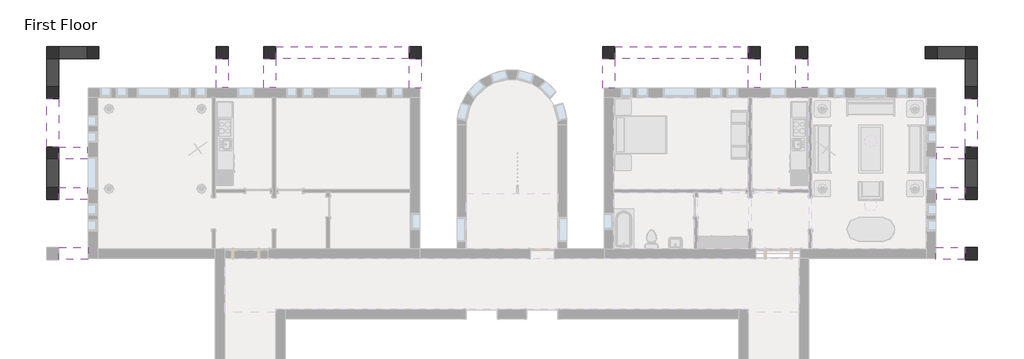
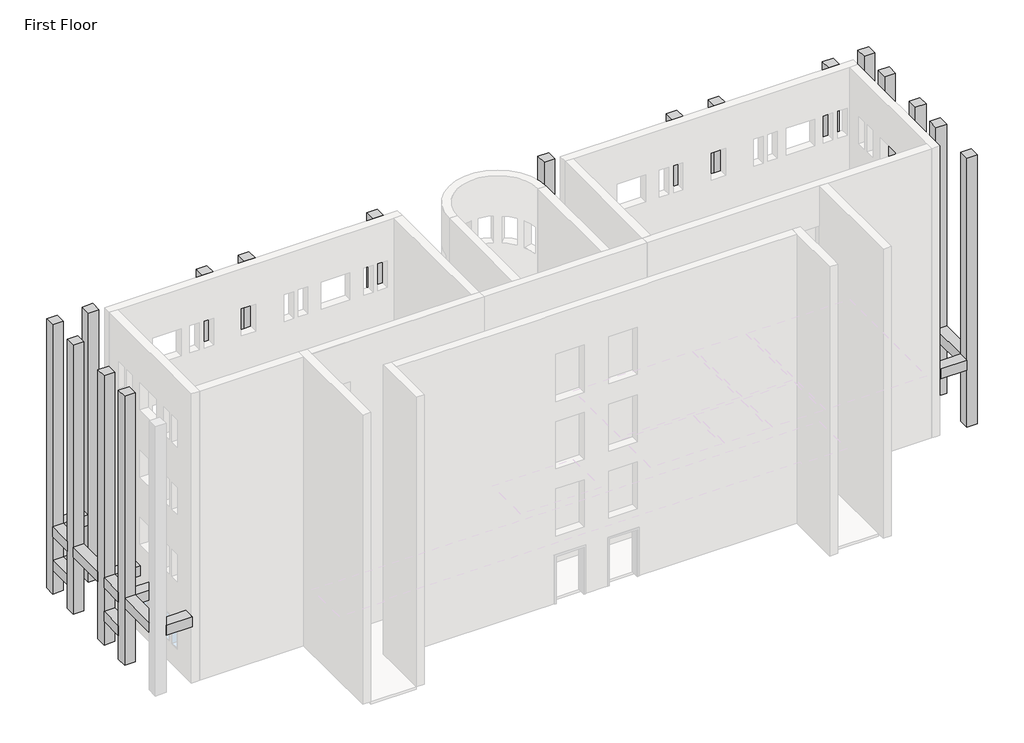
# One storey, part 20 of 23: 22 beams, 17 columns.
"""IFC4 building model written with IfcOpenShell, lengths in millimetres."""

from ifc_helpers import new_model, si_unit, frame, origin, origin_with_axes, place, context, project, spatial, polyline, outline, extrude, faceted_brep, element, save

model = new_model("IFC4")

# Units and contexts
model_context = context("Model", 3, world=origin())
ifc_project = project(units=[si_unit("LENGTHUNIT", "METRE", prefix="MILLI")], contexts=[model_context])

# Site, building, storey
site = spatial("IfcSite", under=ifc_project)
building = spatial("IfcBuilding", under=site)
storey = spatial("IfcBuildingStorey", under=building, Name="First Floor", Elevation=0.0)

# Beams
placement = place(None, origin())
element("IfcBeam", 1, ObjectType="Concrete-Rectangular Beam : 18 x 18", at=placement, inside=storey, context=model_context, shape_type="SweptSolid", body=[
    extrude(outline(polyline([(2093.9410437, 12198.8316867), (2093.9410437, 11741.6316867), (1027.1410437, 11741.6316867), (1027.1410437, 12198.8316867), (2093.9410437, 12198.8316867)])), frame((0.0, 0.0, 2590.8), z_axis=(0.0, 0.0, 1.0), x_axis=(1.0, 0.0, 0.0)), (0.0, 0.0, 1.0), 457.2),
    extrude(outline(polyline([(569.9410437, 12198.8316867), (569.9410437, 11741.6316867), (-3862.3589563, 11741.6316867), (-3862.3589563, 12198.8316867), (569.9410437, 12198.8316867)])), frame((0.0, 0.0, 2590.8), z_axis=(0.0, 0.0, 1.0), x_axis=(1.0, 0.0, 0.0)), (0.0, 0.0, 1.0), 457.2),
    extrude(outline(polyline([(-5665.7589563, 11741.6316867), (-5665.7589563, 12198.8316867), (-4319.5589563, 12198.8316867), (-4319.5589563, 11741.6316867), (-5665.7589563, 11741.6316867)])), frame((0.0, 0.0, 2590.8), z_axis=(0.0, 0.0, 1.0), x_axis=(1.0, 0.0, 0.0)), (0.0, 0.0, 1.0), 457.2),
    extrude(outline(polyline([(-6122.9589563, 12198.8316867), (-6122.9589563, 11741.6316867), (-11164.8589563, 11741.6316867), (-11164.8589563, 12198.8316867), (-6122.9589563, 12198.8316867)])), frame((0.0, 0.0, 2590.8), z_axis=(0.0, 0.0, 1.0), x_axis=(1.0, 0.0, 0.0)), (0.0, 0.0, 1.0), 457.2),
])
element("IfcBeam", 2, ObjectType="Concrete-Rectangular Beam : 18 x 18", at=placement, inside=storey, context=model_context, shape_type="SweptSolid", body=[
    extrude(outline(polyline([(2093.9410437, 11741.6316867), (2551.1410437, 11741.6316867), (2551.1410437, 10674.8316867), (2093.9410437, 10674.8316867), (2093.9410437, 11741.6316867)])), frame((0.0, 0.0, 2590.8), z_axis=(0.0, 0.0, 1.0), x_axis=(1.0, 0.0, 0.0)), (0.0, 0.0, 1.0), 457.2),
    extrude(outline(polyline([(2551.1410437, 4578.8316867), (2093.9410437, 4578.8316867), (2093.9410437, 6407.6316867), (2551.1410437, 6407.6316867), (2551.1410437, 4578.8316867)])), frame((0.0, 0.0, 2590.8), z_axis=(0.0, 0.0, 1.0), x_axis=(1.0, 0.0, 0.0)), (0.0, 0.0, 1.0), 457.2),
    extrude(outline(polyline([(2551.1410437, 6864.8316867), (2093.9410437, 6864.8316867), (2093.9410437, 7931.6316867), (2551.1410437, 7931.6316867), (2551.1410437, 6864.8316867)])), frame((0.0, 0.0, 2590.8), z_axis=(0.0, 0.0, 1.0), x_axis=(1.0, 0.0, 0.0)), (0.0, 0.0, 1.0), 457.2),
    extrude(outline(polyline([(2093.9410437, 10217.6316867), (2551.1410437, 10217.6316867), (2551.1410437, 8388.8316867), (2093.9410437, 8388.8316867), (2093.9410437, 10217.6316867)])), frame((0.0, 0.0, 2590.8), z_axis=(0.0, 0.0, 1.0), x_axis=(1.0, 0.0, 0.0)), (0.0, 0.0, 1.0), 457.2),
])
element("IfcBeam", 3, ObjectType="Concrete-Rectangular Beam : 18 x 18", at=placement, inside=storey, context=model_context, shape_type="SweptSolid", body=[
    extrude(outline(polyline([(-11164.8589563, 10624.0316867), (-11622.0589563, 10624.0316867), (-11622.0589563, 11741.6316867), (-11164.8589563, 11741.6316867), (-11164.8589563, 10624.0316867)])), frame((0.0, 0.0, 2590.8), z_axis=(0.0, 0.0, 1.0), x_axis=(1.0, 0.0, 0.0)), (0.0, 0.0, 1.0), 457.2),
])
element("IfcBeam", 4, ObjectType="Concrete-Rectangular Beam : 18 x 18", at=placement, inside=storey, context=model_context, shape_type="SweptSolid", body=[
    extrude(outline(polyline([(-5665.7589563, 10643.0816867), (-6122.9589563, 10643.0816867), (-6122.9589563, 11741.6316867), (-5665.7589563, 11741.6316867), (-5665.7589563, 10643.0816867)])), frame((0.0, 0.0, 2590.8), z_axis=(0.0, 0.0, 1.0), x_axis=(1.0, 0.0, 0.0)), (0.0, 0.0, 1.0), 457.2),
])
element("IfcBeam", 5, ObjectType="Concrete-Rectangular Beam : 18 x 18", at=placement, inside=storey, context=model_context, shape_type="SweptSolid", body=[
    extrude(outline(polyline([(1001.7410437, 6407.6316867), (1001.7410437, 6864.8316867), (2093.9410437, 6864.8316867), (2093.9410437, 6407.6316867), (1001.7410437, 6407.6316867)])), frame((0.0, 0.0, 2590.8), z_axis=(0.0, 0.0, 1.0), x_axis=(1.0, 0.0, 0.0)), (0.0, 0.0, 1.0), 457.2),
])
element("IfcBeam", 6, ObjectType="Concrete-Rectangular Beam : 18 x 18", at=placement, inside=storey, context=model_context, shape_type="SweptSolid", body=[
    extrude(outline(polyline([(2093.9410437, 12198.8316867), (2093.9410437, 11741.6316867), (1027.1410437, 11741.6316867), (1027.1410437, 12198.8316867), (2093.9410437, 12198.8316867)])), frame((0.0, 0.0, 1066.8), z_axis=(0.0, 0.0, 1.0), x_axis=(1.0, 0.0, 0.0)), (0.0, 0.0, 1.0), 457.2),
])
element("IfcBeam", 7, ObjectType="Concrete-Rectangular Beam : 18 x 18", at=placement, inside=storey, context=model_context, shape_type="SweptSolid", body=[
    extrude(outline(polyline([(2551.1410437, 10674.8316867), (2093.9410437, 10674.8316867), (2093.9410437, 11741.6316867), (2551.1410437, 11741.6316867), (2551.1410437, 10674.8316867)])), frame((0.0, 0.0, 1066.8), z_axis=(0.0, 0.0, 1.0), x_axis=(1.0, 0.0, 0.0)), (0.0, 0.0, 1.0), 457.2),
])
element("IfcBeam", 8, ObjectType="Concrete-Rectangular Beam : 18 x 18", at=placement, inside=storey, context=model_context, shape_type="SweptSolid", body=[
    extrude(outline(polyline([(-3862.3589563, 10643.0816867), (-4319.5589563, 10643.0816867), (-4319.5589563, 11741.6316867), (-3862.3589563, 11741.6316867), (-3862.3589563, 10643.0816867)])), frame((0.0, 0.0, 2590.8), z_axis=(0.0, 0.0, 1.0), x_axis=(1.0, 0.0, 0.0)), (0.0, 0.0, 1.0), 457.2),
])
element("IfcBeam", 9, ObjectType="Concrete-Rectangular Beam : 18 x 18", at=placement, inside=storey, context=model_context, shape_type="SweptSolid", body=[
    extrude(outline(polyline([(1001.7410437, 7931.6316867), (1001.7410437, 8388.8316867), (2093.9410437, 8388.8316867), (2093.9410437, 7931.6316867), (1001.7410437, 7931.6316867)])), frame((0.0, 0.0, 2590.8), z_axis=(0.0, 0.0, 1.0), x_axis=(1.0, 0.0, 0.0)), (0.0, 0.0, 1.0), 457.2),
])
element("IfcBeam", 10, ObjectType="Concrete-Rectangular Beam : 18 x 18", at=placement, inside=storey, context=model_context, shape_type="SweptSolid", body=[
    extrude(outline(polyline([(976.3410437, 4121.6316867), (976.3410437, 4578.8316867), (2093.9410437, 4578.8316867), (2093.9410437, 4121.6316867), (976.3410437, 4121.6316867)])), frame((0.0, 0.0, 2590.8), z_axis=(0.0, 0.0, 1.0), x_axis=(1.0, 0.0, 0.0)), (0.0, 0.0, 1.0), 457.2),
])
element("IfcBeam", 11, ObjectType="Concrete-Rectangular Beam : 18 x 18", at=placement, inside=storey, context=model_context, shape_type="SweptSolid", body=[
    extrude(outline(polyline([(2551.1410437, 6864.8316867), (2093.9410437, 6864.8316867), (2093.9410437, 7931.6316867), (2551.1410437, 7931.6316867), (2551.1410437, 6864.8316867)])), frame((0.0, 0.0, 1066.8), z_axis=(0.0, 0.0, 1.0), x_axis=(1.0, 0.0, 0.0)), (0.0, 0.0, 1.0), 457.2),
])
element("IfcBeam", 12, ObjectType="Concrete-Rectangular Beam : 18 x 18", at=placement, inside=storey, context=model_context, shape_type="SweptSolid", body=[
    extrude(outline(polyline([(-32218.2839563, 11741.6316867), (-32218.2839563, 12198.8316867), (-31151.4839563, 12198.8316867), (-31151.4839563, 11741.6316867), (-32218.2839563, 11741.6316867)])), frame((0.0, 0.0, 2590.8), z_axis=(0.0, 0.0, 1.0), x_axis=(1.0, 0.0, 0.0)), (0.0, 0.0, 1.0), 457.2),
    extrude(outline(polyline([(-30694.2839563, 11741.6316867), (-30694.2839563, 12198.8316867), (-26261.9839563, 12198.8316867), (-26261.9839563, 11741.6316867), (-30694.2839563, 11741.6316867)])), frame((0.0, 0.0, 2590.8), z_axis=(0.0, 0.0, 1.0), x_axis=(1.0, 0.0, 0.0)), (0.0, 0.0, 1.0), 457.2),
    extrude(outline(polyline([(-24458.5839563, 12198.8316867), (-24458.5839563, 11741.6316867), (-25804.7839563, 11741.6316867), (-25804.7839563, 12198.8316867), (-24458.5839563, 12198.8316867)])), frame((0.0, 0.0, 2590.8), z_axis=(0.0, 0.0, 1.0), x_axis=(1.0, 0.0, 0.0)), (0.0, 0.0, 1.0), 457.2),
    extrude(outline(polyline([(-24001.3839563, 11741.6316867), (-24001.3839563, 12198.8316867), (-18959.4839563, 12198.8316867), (-18959.4839563, 11741.6316867), (-24001.3839563, 11741.6316867)])), frame((0.0, 0.0, 2590.8), z_axis=(0.0, 0.0, 1.0), x_axis=(1.0, 0.0, 0.0)), (0.0, 0.0, 1.0), 457.2),
])
element("IfcBeam", 13, ObjectType="Concrete-Rectangular Beam : 18 x 18", at=placement, inside=storey, context=model_context, shape_type="SweptSolid", body=[
    extrude(outline(polyline([(-32218.2839563, 4578.8316867), (-32675.4839563, 4578.8316867), (-32675.4839563, 6407.6316867), (-32218.2839563, 6407.6316867), (-32218.2839563, 4578.8316867)])), frame((0.0, 0.0, 2590.8), z_axis=(0.0, 0.0, 1.0), x_axis=(1.0, 0.0, 0.0)), (0.0, 0.0, 1.0), 457.2),
    extrude(outline(polyline([(-32675.4839563, 11741.6316867), (-32218.2839563, 11741.6316867), (-32218.2839563, 10674.8316867), (-32675.4839563, 10674.8316867), (-32675.4839563, 11741.6316867)])), frame((0.0, 0.0, 2590.8), z_axis=(0.0, 0.0, 1.0), x_axis=(1.0, 0.0, 0.0)), (0.0, 0.0, 1.0), 457.2),
    extrude(outline(polyline([(-32218.2839563, 6864.8316867), (-32675.4839563, 6864.8316867), (-32675.4839563, 7931.6316867), (-32218.2839563, 7931.6316867), (-32218.2839563, 6864.8316867)])), frame((0.0, 0.0, 2590.8), z_axis=(0.0, 0.0, 1.0), x_axis=(1.0, 0.0, 0.0)), (0.0, 0.0, 1.0), 457.2),
    extrude(outline(polyline([(-32675.4839563, 10217.6316867), (-32218.2839563, 10217.6316867), (-32218.2839563, 8388.8316867), (-32675.4839563, 8388.8316867), (-32675.4839563, 10217.6316867)])), frame((0.0, 0.0, 2590.8), z_axis=(0.0, 0.0, 1.0), x_axis=(1.0, 0.0, 0.0)), (0.0, 0.0, 1.0), 457.2),
])
element("IfcBeam", 14, ObjectType="Concrete-Rectangular Beam : 18 x 18", at=placement, inside=storey, context=model_context, shape_type="SweptSolid", body=[
    extrude(outline(polyline([(-18502.2839563, 10624.0316867), (-18959.4839563, 10624.0316867), (-18959.4839563, 11741.6316867), (-18502.2839563, 11741.6316867), (-18502.2839563, 10624.0316867)])), frame((0.0, 0.0, 2590.8), z_axis=(0.0, 0.0, 1.0), x_axis=(1.0, 0.0, 0.0)), (0.0, 0.0, 1.0), 457.2),
])
element("IfcBeam", 15, ObjectType="Concrete-Rectangular Beam : 18 x 18", at=placement, inside=storey, context=model_context, shape_type="SweptSolid", body=[
    extrude(outline(polyline([(-24001.3839563, 10643.0816867), (-24458.5839563, 10643.0816867), (-24458.5839563, 11741.6316867), (-24001.3839563, 11741.6316867), (-24001.3839563, 10643.0816867)])), frame((0.0, 0.0, 2590.8), z_axis=(0.0, 0.0, 1.0), x_axis=(1.0, 0.0, 0.0)), (0.0, 0.0, 1.0), 457.2),
])
element("IfcBeam", 16, ObjectType="Concrete-Rectangular Beam : 18 x 18", at=placement, inside=storey, context=model_context, shape_type="SweptSolid", body=[
    extrude(outline(polyline([(-31126.0839563, 6864.8316867), (-31126.0839563, 6407.6316867), (-32218.2839563, 6407.6316867), (-32218.2839563, 6864.8316867), (-31126.0839563, 6864.8316867)])), frame((0.0, 0.0, 2590.8), z_axis=(0.0, 0.0, 1.0), x_axis=(1.0, 0.0, 0.0)), (0.0, 0.0, 1.0), 457.2),
])
element("IfcBeam", 17, ObjectType="Concrete-Rectangular Beam : 18 x 18", at=placement, inside=storey, context=model_context, shape_type="SweptSolid", body=[
    extrude(outline(polyline([(-32218.2839563, 12198.8316867), (-31151.4839563, 12198.8316867), (-31151.4839563, 11741.6316867), (-32218.2839563, 11741.6316867), (-32218.2839563, 12198.8316867)])), frame((0.0, 0.0, 1066.8), z_axis=(0.0, 0.0, 1.0), x_axis=(1.0, 0.0, 0.0)), (0.0, 0.0, 1.0), 457.2),
])
element("IfcBeam", 18, ObjectType="Concrete-Rectangular Beam : 18 x 18", at=placement, inside=storey, context=model_context, shape_type="SweptSolid", body=[
    extrude(outline(polyline([(-32675.4839563, 10674.8316867), (-32675.4839563, 11741.6316867), (-32218.2839563, 11741.6316867), (-32218.2839563, 10674.8316867), (-32675.4839563, 10674.8316867)])), frame((0.0, 0.0, 1066.8), z_axis=(0.0, 0.0, 1.0), x_axis=(1.0, 0.0, 0.0)), (0.0, 0.0, 1.0), 457.2),
])
element("IfcBeam", 19, ObjectType="Concrete-Rectangular Beam : 18 x 18", at=placement, inside=storey, context=model_context, shape_type="SweptSolid", body=[
    extrude(outline(polyline([(-25804.7839563, 10643.0816867), (-26261.9839563, 10643.0816867), (-26261.9839563, 11741.6316867), (-25804.7839563, 11741.6316867), (-25804.7839563, 10643.0816867)])), frame((0.0, 0.0, 2590.8), z_axis=(0.0, 0.0, 1.0), x_axis=(1.0, 0.0, 0.0)), (0.0, 0.0, 1.0), 457.2),
])
element("IfcBeam", 20, ObjectType="Concrete-Rectangular Beam : 18 x 18", at=placement, inside=storey, context=model_context, shape_type="SweptSolid", body=[
    extrude(outline(polyline([(-31126.0839563, 8388.8316867), (-31126.0839563, 7931.6316867), (-32218.2839563, 7931.6316867), (-32218.2839563, 8388.8316867), (-31126.0839563, 8388.8316867)])), frame((0.0, 0.0, 2590.8), z_axis=(0.0, 0.0, 1.0), x_axis=(1.0, 0.0, 0.0)), (0.0, 0.0, 1.0), 457.2),
])
element("IfcBeam", 21, ObjectType="Concrete-Rectangular Beam : 18 x 18", at=placement, inside=storey, context=model_context, shape_type="SweptSolid", body=[
    extrude(outline(polyline([(-31100.6839563, 4578.8316867), (-31100.6839563, 4121.6316867), (-32218.2839563, 4121.6316867), (-32218.2839563, 4578.8316867), (-31100.6839563, 4578.8316867)])), frame((0.0, 0.0, 2590.8), z_axis=(0.0, 0.0, 1.0), x_axis=(1.0, 0.0, 0.0)), (0.0, 0.0, 1.0), 457.2),
])
element("IfcBeam", 22, ObjectType="Concrete-Rectangular Beam : 18 x 18", at=placement, inside=storey, context=model_context, shape_type="SweptSolid", body=[
    extrude(outline(polyline([(-32675.4839563, 6864.8316867), (-32675.4839563, 7931.6316867), (-32218.2839563, 7931.6316867), (-32218.2839563, 6864.8316867), (-32675.4839563, 6864.8316867)])), frame((0.0, 0.0, 1066.8), z_axis=(0.0, 0.0, 1.0), x_axis=(1.0, 0.0, 0.0)), (0.0, 0.0, 1.0), 457.2),
])

# Columns
element("IfcColumn", 23, ObjectType="Concrete-Square-Column : 18 x 18", at=placement, inside=storey, context=model_context, shape_type="Brep", body=[
    faceted_brep([(1027.1410437, 12198.8316867, 0.0), (1027.1410437, 11741.6316867, 0.0), (569.9410437, 11741.6316867, 0.0), (569.9410437, 12198.8316867, 0.0), (1027.1410437, 12198.8316867, 12192.0), (1027.1410437, 11741.6316867, 12192.0), (1027.1410437, 11741.6316867, 11734.8), (1027.1410437, 11741.6316867, 9144.0), (1027.1410437, 11741.6316867, 8686.8), (1027.1410437, 11741.6316867, 6096.0), (1027.1410437, 11741.6316867, 5638.8), (1027.1410437, 11741.6316867, 3048.0), (1027.1410437, 11741.6316867, 2590.8), (1027.1410437, 12198.8316867, 2590.8), (1027.1410437, 12198.8316867, 3048.0), (1027.1410437, 12198.8316867, 5638.8), (1027.1410437, 12198.8316867, 6096.0), (1027.1410437, 12198.8316867, 8686.8), (1027.1410437, 12198.8316867, 9144.0), (1027.1410437, 12198.8316867, 11734.8), (569.9410437, 11741.6316867, 12192.0), (569.9410437, 11741.6316867, 11734.8), (569.9410437, 11741.6316867, 9144.0), (569.9410437, 11741.6316867, 8686.8), (569.9410437, 11741.6316867, 6096.0), (569.9410437, 11741.6316867, 5638.8), (569.9410437, 11741.6316867, 3048.0), (569.9410437, 11741.6316867, 2590.8), (569.9410437, 12198.8316867, 12192.0), (569.9410437, 12198.8316867, 11734.8), (569.9410437, 12198.8316867, 9144.0), (569.9410437, 12198.8316867, 8686.8), (569.9410437, 12198.8316867, 6096.0), (569.9410437, 12198.8316867, 5638.8), (569.9410437, 12198.8316867, 3048.0), (569.9410437, 12198.8316867, 2590.8)], [[[0, 1, 2, 3]], [[4, 5, 6, 7, 8, 9, 10, 11, 12, 1, 0, 13, 14, 15, 16, 17, 18, 19]], [[5, 20, 21, 22, 23, 24, 25, 26, 27, 2, 1, 12, 11, 10, 9, 8, 7, 6]], [[20, 28, 29, 30, 31, 32, 33, 34, 35, 3, 2, 27, 26, 25, 24, 23, 22, 21]], [[28, 4, 19, 18, 17, 16, 15, 14, 13, 0, 3, 35, 34, 33, 32, 31, 30, 29]], [[4, 28, 20, 5]]]),
])
element("IfcColumn", 24, ObjectType="Concrete-Square-Column : 18 x 18", at=placement, inside=storey, context=model_context, shape_type="SweptSolid", body=[
    extrude(outline(polyline([(2551.1410437, 12198.8316867), (2551.1410437, 11741.6316867), (2093.9410437, 11741.6316867), (2093.9410437, 12198.8316867), (2551.1410437, 12198.8316867)])), origin_with_axes(), (0.0, 0.0, 1.0), 12192.0),
])
element("IfcColumn", 25, ObjectType="Concrete-Square-Column : 18 x 18", at=placement, inside=storey, context=model_context, shape_type="Brep", body=[
    faceted_brep([(-5665.7589563, 12198.8316867, 0.0), (-5665.7589563, 11741.6316867, 0.0), (-6122.9589563, 11741.6316867, 0.0), (-6122.9589563, 12198.8316867, 0.0), (-5665.7589563, 12198.8316867, 12192.0), (-5665.7589563, 11741.6316867, 12192.0), (-5665.7589563, 11741.6316867, 11734.8), (-5665.7589563, 11741.6316867, 9144.0), (-5665.7589563, 11741.6316867, 8686.8), (-5665.7589563, 11741.6316867, 6096.0), (-5665.7589563, 11741.6316867, 5638.8), (-5665.7589563, 11741.6316867, 3048.0), (-5665.7589563, 11741.6316867, 2590.8), (-5665.7589563, 12198.8316867, 2590.8), (-5665.7589563, 12198.8316867, 3048.0), (-5665.7589563, 12198.8316867, 5638.8), (-5665.7589563, 12198.8316867, 6096.0), (-5665.7589563, 12198.8316867, 8686.8), (-5665.7589563, 12198.8316867, 9144.0), (-5665.7589563, 12198.8316867, 11734.8), (-6122.9589563, 11741.6316867, 12192.0), (-6122.9589563, 11741.6316867, 11734.8), (-6122.9589563, 11741.6316867, 9144.0), (-6122.9589563, 11741.6316867, 8686.8), (-6122.9589563, 11741.6316867, 6096.0), (-6122.9589563, 11741.6316867, 5638.8), (-6122.9589563, 11741.6316867, 3048.0), (-6122.9589563, 11741.6316867, 2590.8), (-6122.9589563, 12198.8316867, 12192.0), (-6122.9589563, 12198.8316867, 11734.8), (-6122.9589563, 12198.8316867, 9144.0), (-6122.9589563, 12198.8316867, 8686.8), (-6122.9589563, 12198.8316867, 6096.0), (-6122.9589563, 12198.8316867, 5638.8), (-6122.9589563, 12198.8316867, 3048.0), (-6122.9589563, 12198.8316867, 2590.8)], [[[0, 1, 2, 3]], [[4, 5, 6, 7, 8, 9, 10, 11, 12, 1, 0, 13, 14, 15, 16, 17, 18, 19]], [[5, 20, 21, 22, 23, 24, 25, 26, 27, 2, 1, 12, 11, 10, 9, 8, 7, 6]], [[20, 28, 29, 30, 31, 32, 33, 34, 35, 3, 2, 27, 26, 25, 24, 23, 22, 21]], [[28, 4, 19, 18, 17, 16, 15, 14, 13, 0, 3, 35, 34, 33, 32, 31, 30, 29]], [[4, 28, 20, 5]]]),
])
element("IfcColumn", 26, ObjectType="Concrete-Square-Column : 18 x 18", at=placement, inside=storey, context=model_context, shape_type="Brep", body=[
    faceted_brep([(2551.1410437, 6864.8316867, 0.0), (2551.1410437, 6407.6316867, 0.0), (2093.9410437, 6407.6316867, 0.0), (2093.9410437, 6864.8316867, 0.0), (2551.1410437, 6864.8316867, 12192.0), (2551.1410437, 6407.6316867, 12192.0), (2551.1410437, 6407.6316867, 11734.8), (2551.1410437, 6407.6316867, 9144.0), (2551.1410437, 6407.6316867, 8686.8), (2551.1410437, 6407.6316867, 6096.0), (2551.1410437, 6407.6316867, 5638.8), (2551.1410437, 6407.6316867, 3048.0), (2551.1410437, 6407.6316867, 2590.8), (2551.1410437, 6864.8316867, 2590.8), (2551.1410437, 6864.8316867, 3048.0), (2551.1410437, 6864.8316867, 5638.8), (2551.1410437, 6864.8316867, 6096.0), (2551.1410437, 6864.8316867, 8686.8), (2551.1410437, 6864.8316867, 9144.0), (2551.1410437, 6864.8316867, 11734.8), (2093.9410437, 6407.6316867, 12192.0), (2093.9410437, 6407.6316867, 11734.8), (2093.9410437, 6407.6316867, 9144.0), (2093.9410437, 6407.6316867, 8686.8), (2093.9410437, 6407.6316867, 6096.0), (2093.9410437, 6407.6316867, 5638.8), (2093.9410437, 6407.6316867, 3048.0), (2093.9410437, 6407.6316867, 2590.8), (2093.9410437, 6864.8316867, 12192.0), (2093.9410437, 6864.8316867, 11734.8), (2093.9410437, 6864.8316867, 9144.0), (2093.9410437, 6864.8316867, 8686.8), (2093.9410437, 6864.8316867, 6096.0), (2093.9410437, 6864.8316867, 5638.8), (2093.9410437, 6864.8316867, 3048.0), (2093.9410437, 6864.8316867, 2590.8)], [[[0, 1, 2, 3]], [[4, 5, 6, 7, 8, 9, 10, 11, 12, 1, 0, 13, 14, 15, 16, 17, 18, 19]], [[5, 20, 21, 22, 23, 24, 25, 26, 27, 2, 1, 12, 11, 10, 9, 8, 7, 6]], [[20, 28, 29, 30, 31, 32, 33, 34, 35, 3, 2, 27, 26, 25, 24, 23, 22, 21]], [[28, 4, 19, 18, 17, 16, 15, 14, 13, 0, 3, 35, 34, 33, 32, 31, 30, 29]], [[4, 28, 20, 5]]]),
])
element("IfcColumn", 27, ObjectType="Concrete-Square-Column : 18 x 18", at=placement, inside=storey, context=model_context, shape_type="SweptSolid", body=[
    extrude(outline(polyline([(2551.1410437, 4578.8316867), (2551.1410437, 4121.6316867), (2093.9410437, 4121.6316867), (2093.9410437, 4578.8316867), (2551.1410437, 4578.8316867)])), origin_with_axes(), (0.0, 0.0, 1.0), 12192.0),
])
element("IfcColumn", 28, ObjectType="Concrete-Square-Column : 18 x 18", at=placement, inside=storey, context=model_context, shape_type="Brep", body=[
    faceted_brep([(-11164.8589563, 12198.8316867, 0.0), (-11164.8589563, 11741.6316867, 0.0), (-11622.0589563, 11741.6316867, 0.0), (-11622.0589563, 12198.8316867, 0.0), (-11164.8589563, 12198.8316867, 12192.0), (-11164.8589563, 11741.6316867, 12192.0), (-11164.8589563, 11741.6316867, 11734.8), (-11164.8589563, 11741.6316867, 9144.0), (-11164.8589563, 11741.6316867, 8686.8), (-11164.8589563, 11741.6316867, 6096.0), (-11164.8589563, 11741.6316867, 5638.8), (-11164.8589563, 11741.6316867, 3048.0), (-11164.8589563, 11741.6316867, 2590.8), (-11164.8589563, 12198.8316867, 2590.8), (-11164.8589563, 12198.8316867, 3048.0), (-11164.8589563, 12198.8316867, 5638.8), (-11164.8589563, 12198.8316867, 6096.0), (-11164.8589563, 12198.8316867, 8686.8), (-11164.8589563, 12198.8316867, 9144.0), (-11164.8589563, 12198.8316867, 11734.8), (-11622.0589563, 11741.6316867, 12192.0), (-11622.0589563, 12198.8316867, 12192.0)], [[[0, 1, 2, 3]], [[4, 5, 6, 7, 8, 9, 10, 11, 12, 1, 0, 13, 14, 15, 16, 17, 18, 19]], [[5, 20, 2, 1, 12, 11, 10, 9, 8, 7, 6]], [[20, 21, 3, 2]], [[21, 4, 19, 18, 17, 16, 15, 14, 13, 0, 3]], [[4, 21, 20, 5]]]),
])
element("IfcColumn", 29, ObjectType="Concrete-Square-Column : 18 x 18", at=placement, inside=storey, context=model_context, shape_type="Brep", body=[
    faceted_brep([(2551.1410437, 10674.8316867, 0.0), (2551.1410437, 10217.6316867, 0.0), (2093.9410437, 10217.6316867, 0.0), (2093.9410437, 10674.8316867, 0.0), (2551.1410437, 10674.8316867, 12192.0), (2551.1410437, 10217.6316867, 12192.0), (2551.1410437, 10217.6316867, 11734.8), (2551.1410437, 10217.6316867, 9144.0), (2551.1410437, 10217.6316867, 8686.8), (2551.1410437, 10217.6316867, 6096.0), (2551.1410437, 10217.6316867, 5638.8), (2551.1410437, 10217.6316867, 3048.0), (2551.1410437, 10217.6316867, 2590.8), (2551.1410437, 10674.8316867, 2590.8), (2551.1410437, 10674.8316867, 3048.0), (2551.1410437, 10674.8316867, 5638.8), (2551.1410437, 10674.8316867, 6096.0), (2551.1410437, 10674.8316867, 8686.8), (2551.1410437, 10674.8316867, 9144.0), (2551.1410437, 10674.8316867, 11734.8), (2093.9410437, 10217.6316867, 12192.0), (2093.9410437, 10217.6316867, 11734.8), (2093.9410437, 10217.6316867, 9144.0), (2093.9410437, 10217.6316867, 8686.8), (2093.9410437, 10217.6316867, 6096.0), (2093.9410437, 10217.6316867, 5638.8), (2093.9410437, 10217.6316867, 3048.0), (2093.9410437, 10217.6316867, 2590.8), (2093.9410437, 10674.8316867, 12192.0), (2093.9410437, 10674.8316867, 11734.8), (2093.9410437, 10674.8316867, 9144.0), (2093.9410437, 10674.8316867, 8686.8), (2093.9410437, 10674.8316867, 6096.0), (2093.9410437, 10674.8316867, 5638.8), (2093.9410437, 10674.8316867, 3048.0), (2093.9410437, 10674.8316867, 2590.8)], [[[0, 1, 2, 3]], [[4, 5, 6, 7, 8, 9, 10, 11, 12, 1, 0, 13, 14, 15, 16, 17, 18, 19]], [[5, 20, 21, 22, 23, 24, 25, 26, 27, 2, 1, 12, 11, 10, 9, 8, 7, 6]], [[20, 28, 29, 30, 31, 32, 33, 34, 35, 3, 2, 27, 26, 25, 24, 23, 22, 21]], [[28, 4, 19, 18, 17, 16, 15, 14, 13, 0, 3, 35, 34, 33, 32, 31, 30, 29]], [[4, 28, 20, 5]]]),
])
element("IfcColumn", 30, ObjectType="Concrete-Square-Column : 18 x 18", at=placement, inside=storey, context=model_context, shape_type="Brep", body=[
    faceted_brep([(2551.1410437, 8388.8316867, 0.0), (2551.1410437, 7931.6316867, 0.0), (2093.9410437, 7931.6316867, 0.0), (2093.9410437, 8388.8316867, 0.0), (2551.1410437, 8388.8316867, 12192.0), (2551.1410437, 7931.6316867, 12192.0), (2551.1410437, 7931.6316867, 11734.8), (2551.1410437, 7931.6316867, 9144.0), (2551.1410437, 7931.6316867, 8686.8), (2551.1410437, 7931.6316867, 6096.0), (2551.1410437, 7931.6316867, 5638.8), (2551.1410437, 7931.6316867, 3048.0), (2551.1410437, 7931.6316867, 2590.8), (2551.1410437, 8388.8316867, 2590.8), (2551.1410437, 8388.8316867, 3048.0), (2551.1410437, 8388.8316867, 5638.8), (2551.1410437, 8388.8316867, 6096.0), (2551.1410437, 8388.8316867, 8686.8), (2551.1410437, 8388.8316867, 9144.0), (2551.1410437, 8388.8316867, 11734.8), (2093.9410437, 7931.6316867, 12192.0), (2093.9410437, 7931.6316867, 11734.8), (2093.9410437, 7931.6316867, 9144.0), (2093.9410437, 7931.6316867, 8686.8), (2093.9410437, 7931.6316867, 6096.0), (2093.9410437, 7931.6316867, 5638.8), (2093.9410437, 7931.6316867, 3048.0), (2093.9410437, 7931.6316867, 2590.8), (2093.9410437, 8388.8316867, 12192.0), (2093.9410437, 8388.8316867, 11734.8), (2093.9410437, 8388.8316867, 9144.0), (2093.9410437, 8388.8316867, 8686.8), (2093.9410437, 8388.8316867, 6096.0), (2093.9410437, 8388.8316867, 5638.8), (2093.9410437, 8388.8316867, 3048.0), (2093.9410437, 8388.8316867, 2590.8)], [[[0, 1, 2, 3]], [[4, 5, 6, 7, 8, 9, 10, 11, 12, 1, 0, 13, 14, 15, 16, 17, 18, 19]], [[5, 20, 21, 22, 23, 24, 25, 26, 27, 2, 1, 12, 11, 10, 9, 8, 7, 6]], [[20, 28, 29, 30, 31, 32, 33, 34, 35, 3, 2, 27, 26, 25, 24, 23, 22, 21]], [[28, 4, 19, 18, 17, 16, 15, 14, 13, 0, 3, 35, 34, 33, 32, 31, 30, 29]], [[4, 28, 20, 5]]]),
])
element("IfcColumn", 31, ObjectType="Concrete-Square-Column : 18 x 18", at=placement, inside=storey, context=model_context, shape_type="Brep", body=[
    faceted_brep([(-3862.3589563, 12198.8316867, 0.0), (-3862.3589563, 11741.6316867, 0.0), (-4319.5589563, 11741.6316867, 0.0), (-4319.5589563, 12198.8316867, 0.0), (-3862.3589563, 12198.8316867, 12192.0), (-3862.3589563, 11741.6316867, 12192.0), (-3862.3589563, 11741.6316867, 11734.8), (-3862.3589563, 11741.6316867, 9144.0), (-3862.3589563, 11741.6316867, 8686.8), (-3862.3589563, 11741.6316867, 6096.0), (-3862.3589563, 11741.6316867, 5638.8), (-3862.3589563, 11741.6316867, 3048.0), (-3862.3589563, 11741.6316867, 2590.8), (-3862.3589563, 12198.8316867, 2590.8), (-3862.3589563, 12198.8316867, 3048.0), (-3862.3589563, 12198.8316867, 5638.8), (-3862.3589563, 12198.8316867, 6096.0), (-3862.3589563, 12198.8316867, 8686.8), (-3862.3589563, 12198.8316867, 9144.0), (-3862.3589563, 12198.8316867, 11734.8), (-4319.5589563, 11741.6316867, 12192.0), (-4319.5589563, 11741.6316867, 11734.8), (-4319.5589563, 11741.6316867, 9144.0), (-4319.5589563, 11741.6316867, 8686.8), (-4319.5589563, 11741.6316867, 6096.0), (-4319.5589563, 11741.6316867, 5638.8), (-4319.5589563, 11741.6316867, 3048.0), (-4319.5589563, 11741.6316867, 2590.8), (-4319.5589563, 12198.8316867, 12192.0), (-4319.5589563, 12198.8316867, 11734.8), (-4319.5589563, 12198.8316867, 9144.0), (-4319.5589563, 12198.8316867, 8686.8), (-4319.5589563, 12198.8316867, 6096.0), (-4319.5589563, 12198.8316867, 5638.8), (-4319.5589563, 12198.8316867, 3048.0), (-4319.5589563, 12198.8316867, 2590.8)], [[[0, 1, 2, 3]], [[4, 5, 6, 7, 8, 9, 10, 11, 12, 1, 0, 13, 14, 15, 16, 17, 18, 19]], [[5, 20, 21, 22, 23, 24, 25, 26, 27, 2, 1, 12, 11, 10, 9, 8, 7, 6]], [[20, 28, 29, 30, 31, 32, 33, 34, 35, 3, 2, 27, 26, 25, 24, 23, 22, 21]], [[28, 4, 19, 18, 17, 16, 15, 14, 13, 0, 3, 35, 34, 33, 32, 31, 30, 29]], [[4, 28, 20, 5]]]),
])
element("IfcColumn", 32, ObjectType="Concrete-Square-Column : 18 x 18", at=placement, inside=storey, context=model_context, shape_type="Brep", body=[
    faceted_brep([(-31151.4839563, 12198.8316867, 0.0), (-30694.2839563, 12198.8316867, 0.0), (-30694.2839563, 11741.6316867, 0.0), (-31151.4839563, 11741.6316867, 0.0), (-31151.4839563, 12198.8316867, 12192.0), (-31151.4839563, 12198.8316867, 11734.8), (-31151.4839563, 12198.8316867, 9144.0), (-31151.4839563, 12198.8316867, 8686.8), (-31151.4839563, 12198.8316867, 6096.0), (-31151.4839563, 12198.8316867, 5638.8), (-31151.4839563, 12198.8316867, 3048.0), (-31151.4839563, 12198.8316867, 2590.8), (-31151.4839563, 11741.6316867, 2590.8), (-31151.4839563, 11741.6316867, 3048.0), (-31151.4839563, 11741.6316867, 5638.8), (-31151.4839563, 11741.6316867, 6096.0), (-31151.4839563, 11741.6316867, 8686.8), (-31151.4839563, 11741.6316867, 9144.0), (-31151.4839563, 11741.6316867, 11734.8), (-31151.4839563, 11741.6316867, 12192.0), (-30694.2839563, 11741.6316867, 2590.8), (-30694.2839563, 11741.6316867, 3048.0), (-30694.2839563, 11741.6316867, 5638.8), (-30694.2839563, 11741.6316867, 6096.0), (-30694.2839563, 11741.6316867, 8686.8), (-30694.2839563, 11741.6316867, 9144.0), (-30694.2839563, 11741.6316867, 11734.8), (-30694.2839563, 11741.6316867, 12192.0), (-30694.2839563, 12198.8316867, 2590.8), (-30694.2839563, 12198.8316867, 3048.0), (-30694.2839563, 12198.8316867, 5638.8), (-30694.2839563, 12198.8316867, 6096.0), (-30694.2839563, 12198.8316867, 8686.8), (-30694.2839563, 12198.8316867, 9144.0), (-30694.2839563, 12198.8316867, 11734.8), (-30694.2839563, 12198.8316867, 12192.0)], [[[0, 1, 2, 3]], [[4, 5, 6, 7, 8, 9, 10, 11, 0, 3, 12, 13, 14, 15, 16, 17, 18, 19]], [[19, 18, 17, 16, 15, 14, 13, 12, 3, 2, 20, 21, 22, 23, 24, 25, 26, 27]], [[27, 26, 25, 24, 23, 22, 21, 20, 2, 1, 28, 29, 30, 31, 32, 33, 34, 35]], [[35, 34, 33, 32, 31, 30, 29, 28, 1, 0, 11, 10, 9, 8, 7, 6, 5, 4]], [[4, 19, 27, 35]]]),
])
element("IfcColumn", 33, ObjectType="Concrete-Square-Column : 18 x 18", at=placement, inside=storey, context=model_context, shape_type="SweptSolid", body=[
    extrude(outline(polyline([(-32675.4839563, 12198.8316867), (-32218.2839563, 12198.8316867), (-32218.2839563, 11741.6316867), (-32675.4839563, 11741.6316867), (-32675.4839563, 12198.8316867)])), origin_with_axes(), (0.0, 0.0, 1.0), 12192.0),
])
element("IfcColumn", 34, ObjectType="Concrete-Square-Column : 18 x 18", at=placement, inside=storey, context=model_context, shape_type="Brep", body=[
    faceted_brep([(-24458.5839563, 12198.8316867, 0.0), (-24001.3839563, 12198.8316867, 0.0), (-24001.3839563, 11741.6316867, 0.0), (-24458.5839563, 11741.6316867, 0.0), (-24458.5839563, 12198.8316867, 12192.0), (-24458.5839563, 12198.8316867, 11734.8), (-24458.5839563, 12198.8316867, 9144.0), (-24458.5839563, 12198.8316867, 8686.8), (-24458.5839563, 12198.8316867, 6096.0), (-24458.5839563, 12198.8316867, 5638.8), (-24458.5839563, 12198.8316867, 3048.0), (-24458.5839563, 12198.8316867, 2590.8), (-24458.5839563, 11741.6316867, 2590.8), (-24458.5839563, 11741.6316867, 3048.0), (-24458.5839563, 11741.6316867, 5638.8), (-24458.5839563, 11741.6316867, 6096.0), (-24458.5839563, 11741.6316867, 8686.8), (-24458.5839563, 11741.6316867, 9144.0), (-24458.5839563, 11741.6316867, 11734.8), (-24458.5839563, 11741.6316867, 12192.0), (-24001.3839563, 11741.6316867, 2590.8), (-24001.3839563, 11741.6316867, 3048.0), (-24001.3839563, 11741.6316867, 5638.8), (-24001.3839563, 11741.6316867, 6096.0), (-24001.3839563, 11741.6316867, 8686.8), (-24001.3839563, 11741.6316867, 9144.0), (-24001.3839563, 11741.6316867, 11734.8), (-24001.3839563, 11741.6316867, 12192.0), (-24001.3839563, 12198.8316867, 2590.8), (-24001.3839563, 12198.8316867, 3048.0), (-24001.3839563, 12198.8316867, 5638.8), (-24001.3839563, 12198.8316867, 6096.0), (-24001.3839563, 12198.8316867, 8686.8), (-24001.3839563, 12198.8316867, 9144.0), (-24001.3839563, 12198.8316867, 11734.8), (-24001.3839563, 12198.8316867, 12192.0)], [[[0, 1, 2, 3]], [[4, 5, 6, 7, 8, 9, 10, 11, 0, 3, 12, 13, 14, 15, 16, 17, 18, 19]], [[19, 18, 17, 16, 15, 14, 13, 12, 3, 2, 20, 21, 22, 23, 24, 25, 26, 27]], [[27, 26, 25, 24, 23, 22, 21, 20, 2, 1, 28, 29, 30, 31, 32, 33, 34, 35]], [[35, 34, 33, 32, 31, 30, 29, 28, 1, 0, 11, 10, 9, 8, 7, 6, 5, 4]], [[4, 19, 27, 35]]]),
])
element("IfcColumn", 35, ObjectType="Concrete-Square-Column : 18 x 18", at=placement, inside=storey, context=model_context, shape_type="Brep", body=[
    faceted_brep([(-32675.4839563, 6864.8316867, 0.0), (-32218.2839563, 6864.8316867, 0.0), (-32218.2839563, 6407.6316867, 0.0), (-32675.4839563, 6407.6316867, 0.0), (-32675.4839563, 6864.8316867, 12192.0), (-32675.4839563, 6864.8316867, 11734.8), (-32675.4839563, 6864.8316867, 9144.0), (-32675.4839563, 6864.8316867, 8686.8), (-32675.4839563, 6864.8316867, 6096.0), (-32675.4839563, 6864.8316867, 5638.8), (-32675.4839563, 6864.8316867, 3048.0), (-32675.4839563, 6864.8316867, 2590.8), (-32675.4839563, 6407.6316867, 2590.8), (-32675.4839563, 6407.6316867, 3048.0), (-32675.4839563, 6407.6316867, 5638.8), (-32675.4839563, 6407.6316867, 6096.0), (-32675.4839563, 6407.6316867, 8686.8), (-32675.4839563, 6407.6316867, 9144.0), (-32675.4839563, 6407.6316867, 11734.8), (-32675.4839563, 6407.6316867, 12192.0), (-32218.2839563, 6407.6316867, 2590.8), (-32218.2839563, 6407.6316867, 3048.0), (-32218.2839563, 6407.6316867, 5638.8), (-32218.2839563, 6407.6316867, 6096.0), (-32218.2839563, 6407.6316867, 8686.8), (-32218.2839563, 6407.6316867, 9144.0), (-32218.2839563, 6407.6316867, 11734.8), (-32218.2839563, 6407.6316867, 12192.0), (-32218.2839563, 6864.8316867, 2590.8), (-32218.2839563, 6864.8316867, 3048.0), (-32218.2839563, 6864.8316867, 5638.8), (-32218.2839563, 6864.8316867, 6096.0), (-32218.2839563, 6864.8316867, 8686.8), (-32218.2839563, 6864.8316867, 9144.0), (-32218.2839563, 6864.8316867, 11734.8), (-32218.2839563, 6864.8316867, 12192.0)], [[[0, 1, 2, 3]], [[4, 5, 6, 7, 8, 9, 10, 11, 0, 3, 12, 13, 14, 15, 16, 17, 18, 19]], [[19, 18, 17, 16, 15, 14, 13, 12, 3, 2, 20, 21, 22, 23, 24, 25, 26, 27]], [[27, 26, 25, 24, 23, 22, 21, 20, 2, 1, 28, 29, 30, 31, 32, 33, 34, 35]], [[35, 34, 33, 32, 31, 30, 29, 28, 1, 0, 11, 10, 9, 8, 7, 6, 5, 4]], [[4, 19, 27, 35]]]),
])
element("IfcColumn", 36, ObjectType="Concrete-Square-Column : 18 x 18", at=placement, inside=storey, context=model_context, shape_type="Brep", body=[
    faceted_brep([(-18959.4839563, 12198.8316867, 0.0), (-18502.2839563, 12198.8316867, 0.0), (-18502.2839563, 11741.6316867, 0.0), (-18959.4839563, 11741.6316867, 0.0), (-18959.4839563, 12198.8316867, 12192.0), (-18959.4839563, 12198.8316867, 11734.8), (-18959.4839563, 12198.8316867, 9144.0), (-18959.4839563, 12198.8316867, 8686.8), (-18959.4839563, 12198.8316867, 6096.0), (-18959.4839563, 12198.8316867, 5638.8), (-18959.4839563, 12198.8316867, 3048.0), (-18959.4839563, 12198.8316867, 2590.8), (-18959.4839563, 11741.6316867, 2590.8), (-18959.4839563, 11741.6316867, 3048.0), (-18959.4839563, 11741.6316867, 5638.8), (-18959.4839563, 11741.6316867, 6096.0), (-18959.4839563, 11741.6316867, 8686.8), (-18959.4839563, 11741.6316867, 9144.0), (-18959.4839563, 11741.6316867, 11734.8), (-18959.4839563, 11741.6316867, 12192.0), (-18502.2839563, 11741.6316867, 12192.0), (-18502.2839563, 12198.8316867, 12192.0)], [[[0, 1, 2, 3]], [[4, 5, 6, 7, 8, 9, 10, 11, 0, 3, 12, 13, 14, 15, 16, 17, 18, 19]], [[19, 18, 17, 16, 15, 14, 13, 12, 3, 2, 20]], [[20, 2, 1, 21]], [[21, 1, 0, 11, 10, 9, 8, 7, 6, 5, 4]], [[4, 19, 20, 21]]]),
])
element("IfcColumn", 37, ObjectType="Concrete-Square-Column : 18 x 18", at=placement, inside=storey, context=model_context, shape_type="Brep", body=[
    faceted_brep([(-32675.4839563, 10674.8316867, 0.0), (-32218.2839563, 10674.8316867, 0.0), (-32218.2839563, 10217.6316867, 0.0), (-32675.4839563, 10217.6316867, 0.0), (-32675.4839563, 10674.8316867, 12192.0), (-32675.4839563, 10674.8316867, 11734.8), (-32675.4839563, 10674.8316867, 9144.0), (-32675.4839563, 10674.8316867, 8686.8), (-32675.4839563, 10674.8316867, 6096.0), (-32675.4839563, 10674.8316867, 5638.8), (-32675.4839563, 10674.8316867, 3048.0), (-32675.4839563, 10674.8316867, 2590.8), (-32675.4839563, 10217.6316867, 2590.8), (-32675.4839563, 10217.6316867, 3048.0), (-32675.4839563, 10217.6316867, 5638.8), (-32675.4839563, 10217.6316867, 6096.0), (-32675.4839563, 10217.6316867, 8686.8), (-32675.4839563, 10217.6316867, 9144.0), (-32675.4839563, 10217.6316867, 11734.8), (-32675.4839563, 10217.6316867, 12192.0), (-32218.2839563, 10217.6316867, 2590.8), (-32218.2839563, 10217.6316867, 3048.0), (-32218.2839563, 10217.6316867, 5638.8), (-32218.2839563, 10217.6316867, 6096.0), (-32218.2839563, 10217.6316867, 8686.8), (-32218.2839563, 10217.6316867, 9144.0), (-32218.2839563, 10217.6316867, 11734.8), (-32218.2839563, 10217.6316867, 12192.0), (-32218.2839563, 10674.8316867, 2590.8), (-32218.2839563, 10674.8316867, 3048.0), (-32218.2839563, 10674.8316867, 5638.8), (-32218.2839563, 10674.8316867, 6096.0), (-32218.2839563, 10674.8316867, 8686.8), (-32218.2839563, 10674.8316867, 9144.0), (-32218.2839563, 10674.8316867, 11734.8), (-32218.2839563, 10674.8316867, 12192.0)], [[[0, 1, 2, 3]], [[4, 5, 6, 7, 8, 9, 10, 11, 0, 3, 12, 13, 14, 15, 16, 17, 18, 19]], [[19, 18, 17, 16, 15, 14, 13, 12, 3, 2, 20, 21, 22, 23, 24, 25, 26, 27]], [[27, 26, 25, 24, 23, 22, 21, 20, 2, 1, 28, 29, 30, 31, 32, 33, 34, 35]], [[35, 34, 33, 32, 31, 30, 29, 28, 1, 0, 11, 10, 9, 8, 7, 6, 5, 4]], [[4, 19, 27, 35]]]),
])
element("IfcColumn", 38, ObjectType="Concrete-Square-Column : 18 x 18", at=placement, inside=storey, context=model_context, shape_type="Brep", body=[
    faceted_brep([(-32675.4839563, 8388.8316867, 0.0), (-32218.2839563, 8388.8316867, 0.0), (-32218.2839563, 7931.6316867, 0.0), (-32675.4839563, 7931.6316867, 0.0), (-32675.4839563, 8388.8316867, 12192.0), (-32675.4839563, 8388.8316867, 11734.8), (-32675.4839563, 8388.8316867, 9144.0), (-32675.4839563, 8388.8316867, 8686.8), (-32675.4839563, 8388.8316867, 6096.0), (-32675.4839563, 8388.8316867, 5638.8), (-32675.4839563, 8388.8316867, 3048.0), (-32675.4839563, 8388.8316867, 2590.8), (-32675.4839563, 7931.6316867, 2590.8), (-32675.4839563, 7931.6316867, 3048.0), (-32675.4839563, 7931.6316867, 5638.8), (-32675.4839563, 7931.6316867, 6096.0), (-32675.4839563, 7931.6316867, 8686.8), (-32675.4839563, 7931.6316867, 9144.0), (-32675.4839563, 7931.6316867, 11734.8), (-32675.4839563, 7931.6316867, 12192.0), (-32218.2839563, 7931.6316867, 2590.8), (-32218.2839563, 7931.6316867, 3048.0), (-32218.2839563, 7931.6316867, 5638.8), (-32218.2839563, 7931.6316867, 6096.0), (-32218.2839563, 7931.6316867, 8686.8), (-32218.2839563, 7931.6316867, 9144.0), (-32218.2839563, 7931.6316867, 11734.8), (-32218.2839563, 7931.6316867, 12192.0), (-32218.2839563, 8388.8316867, 2590.8), (-32218.2839563, 8388.8316867, 3048.0), (-32218.2839563, 8388.8316867, 5638.8), (-32218.2839563, 8388.8316867, 6096.0), (-32218.2839563, 8388.8316867, 8686.8), (-32218.2839563, 8388.8316867, 9144.0), (-32218.2839563, 8388.8316867, 11734.8), (-32218.2839563, 8388.8316867, 12192.0)], [[[0, 1, 2, 3]], [[4, 5, 6, 7, 8, 9, 10, 11, 0, 3, 12, 13, 14, 15, 16, 17, 18, 19]], [[19, 18, 17, 16, 15, 14, 13, 12, 3, 2, 20, 21, 22, 23, 24, 25, 26, 27]], [[27, 26, 25, 24, 23, 22, 21, 20, 2, 1, 28, 29, 30, 31, 32, 33, 34, 35]], [[35, 34, 33, 32, 31, 30, 29, 28, 1, 0, 11, 10, 9, 8, 7, 6, 5, 4]], [[4, 19, 27, 35]]]),
])
element("IfcColumn", 39, ObjectType="Concrete-Square-Column : 18 x 18", at=placement, inside=storey, context=model_context, shape_type="Brep", body=[
    faceted_brep([(-26261.9839563, 12198.8316867, 0.0), (-25804.7839563, 12198.8316867, 0.0), (-25804.7839563, 11741.6316867, 0.0), (-26261.9839563, 11741.6316867, 0.0), (-26261.9839563, 12198.8316867, 12192.0), (-26261.9839563, 12198.8316867, 11734.8), (-26261.9839563, 12198.8316867, 9144.0), (-26261.9839563, 12198.8316867, 8686.8), (-26261.9839563, 12198.8316867, 6096.0), (-26261.9839563, 12198.8316867, 5638.8), (-26261.9839563, 12198.8316867, 3048.0), (-26261.9839563, 12198.8316867, 2590.8), (-26261.9839563, 11741.6316867, 2590.8), (-26261.9839563, 11741.6316867, 3048.0), (-26261.9839563, 11741.6316867, 5638.8), (-26261.9839563, 11741.6316867, 6096.0), (-26261.9839563, 11741.6316867, 8686.8), (-26261.9839563, 11741.6316867, 9144.0), (-26261.9839563, 11741.6316867, 11734.8), (-26261.9839563, 11741.6316867, 12192.0), (-25804.7839563, 11741.6316867, 2590.8), (-25804.7839563, 11741.6316867, 3048.0), (-25804.7839563, 11741.6316867, 5638.8), (-25804.7839563, 11741.6316867, 6096.0), (-25804.7839563, 11741.6316867, 8686.8), (-25804.7839563, 11741.6316867, 9144.0), (-25804.7839563, 11741.6316867, 11734.8), (-25804.7839563, 11741.6316867, 12192.0), (-25804.7839563, 12198.8316867, 2590.8), (-25804.7839563, 12198.8316867, 3048.0), (-25804.7839563, 12198.8316867, 5638.8), (-25804.7839563, 12198.8316867, 6096.0), (-25804.7839563, 12198.8316867, 8686.8), (-25804.7839563, 12198.8316867, 9144.0), (-25804.7839563, 12198.8316867, 11734.8), (-25804.7839563, 12198.8316867, 12192.0)], [[[0, 1, 2, 3]], [[4, 5, 6, 7, 8, 9, 10, 11, 0, 3, 12, 13, 14, 15, 16, 17, 18, 19]], [[19, 18, 17, 16, 15, 14, 13, 12, 3, 2, 20, 21, 22, 23, 24, 25, 26, 27]], [[27, 26, 25, 24, 23, 22, 21, 20, 2, 1, 28, 29, 30, 31, 32, 33, 34, 35]], [[35, 34, 33, 32, 31, 30, 29, 28, 1, 0, 11, 10, 9, 8, 7, 6, 5, 4]], [[4, 19, 27, 35]]]),
])

save(model, "model.ifc")
